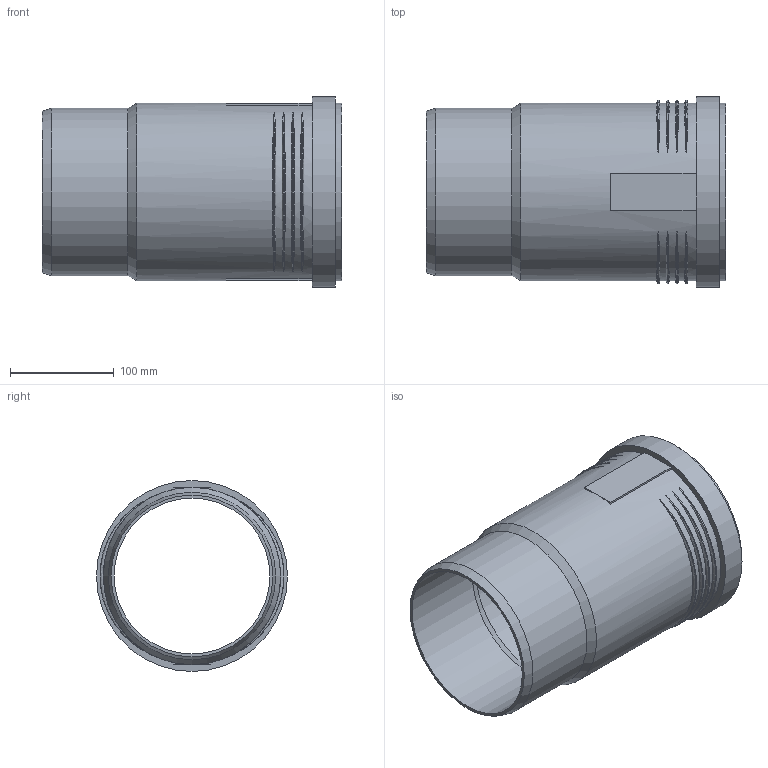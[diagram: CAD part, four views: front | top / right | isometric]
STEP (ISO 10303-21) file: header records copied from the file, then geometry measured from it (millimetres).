
FILE_DESCRIPTION(/* description */ (''),/* implementation_level */ '2;1');
FILE_NAME(/* name */ 'Z:\Geberit\Export\NewStep\390718.stp',/* time_stamp */ '2014-04-02T08:16:31+02:00',/* author */ ('ML'),/* organization */ (''),/* preprocessor_version */ 'ST-DEVELOPER v15.2',/* originating_system */ 'Autodesk Inventor 2014',/* authorisation */ '');
FILE_SCHEMA (('AUTOMOTIVE_DESIGN { 1 0 10303 214 3 1 1 }'));
Length unit declared in the file: millimetre
Products named in the file (1): 390718
Bounding box: 289.5 x 184.5 x 184.5 mm (x, y, z)
Volume: 786816.4 mm3; surface area: 323832.5 mm2
Topology: 1 solids, 1 shells, 51 faces, 124 edges, 83 vertices
Faces by surface type: torus 24, plane 16, cylinder 8, cone 3
Full cylindrical faces by diameter (mm): 150.65 x1, 161.7 x3, 171.3 x2, 174.9 x1, 184.5 x1
Entity records: 2152 total; most frequent: CARTESIAN_POINT 994, ORIENTED_EDGE 216, DIRECTION 202, EDGE_CURVE 108, AXIS2_PLACEMENT_3D 90, VERTEX_POINT 82, EDGE_LOOP 76, STYLED_ITEM 52
